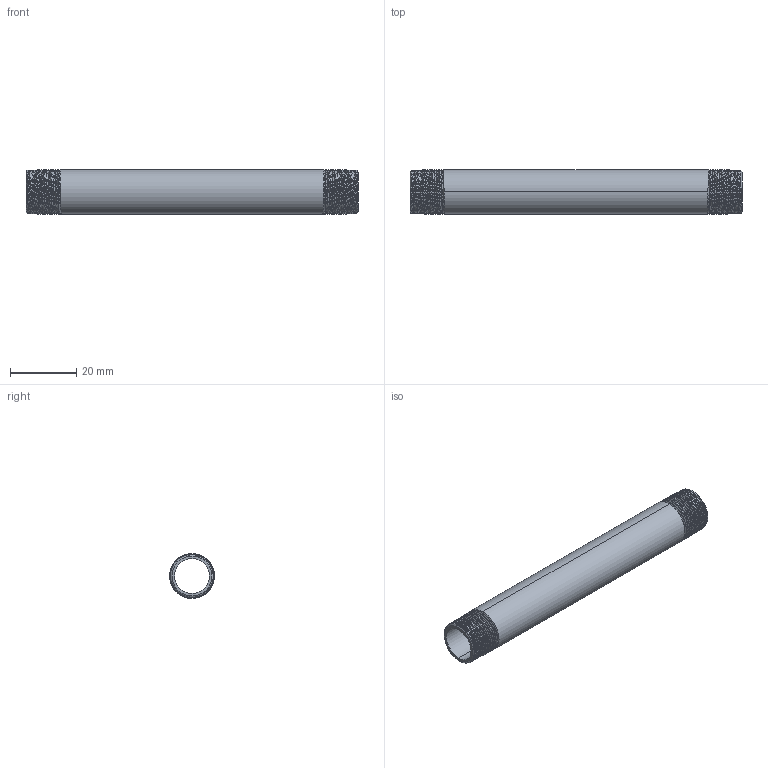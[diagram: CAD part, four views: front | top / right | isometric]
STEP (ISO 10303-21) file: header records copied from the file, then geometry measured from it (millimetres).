
FILE_DESCRIPTION (( 'STEP AP203' ), '1' );
FILE_NAME ('3D_R210_1-4x100_17185110.STEP', '2024-08-16T10:36:37', ( '' ), ( '' ), 'SwSTEP 2.0', 'SolidWorks 2024', '' );
FILE_SCHEMA (( 'CONFIG_CONTROL_DESIGN' ));
Length unit declared in the file: millimetre
Products named in the file (1): 3D_R210_1-4x100_17185110
Bounding box: 100 x 13.49 x 13.5 mm (x, y, z)
Volume: 5469.2 mm3; surface area: 7980.9 mm2
Topology: 1 solids, 1 shells, 76 faces, 216 edges, 142 vertices
Faces by surface type: cone 62, bspline 6, cylinder 4, plane 4
Entity records: 10859 total; most frequent: CARTESIAN_POINT 9099, ORIENTED_EDGE 432, DIRECTION 230, EDGE_CURVE 216, VERTEX_POINT 142, B_SPLINE_CURVE_WITH_KNOTS 130, AXIS2_PLACEMENT_3D 81, EDGE_LOOP 78
